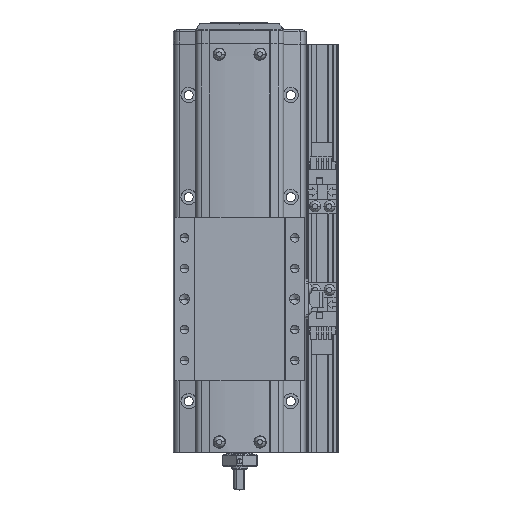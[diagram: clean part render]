
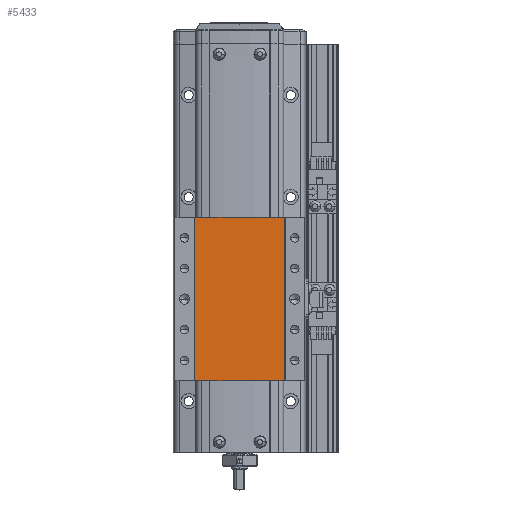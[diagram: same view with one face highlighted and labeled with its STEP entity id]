
A CAD part, top view. The second image highlights one B-rep face of the part: STEP entity #5433.
In plain terms, the highlighted planar face has unit normal (0, 0, 1).
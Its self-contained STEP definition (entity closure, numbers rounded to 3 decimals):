
#5433=ADVANCED_FACE('',(#11132),#11133,.F.);
#11132=FACE_OUTER_BOUND('',#17964,.T.);
#11133=PLANE('',#17965);
#17964=EDGE_LOOP('',(#33157,#33158,#33159,#33160));
#17965=AXIS2_PLACEMENT_3D('',#33161,#33162,#33163);
#33157=ORIENTED_EDGE('',*,*,#39109,.F.);
#33158=ORIENTED_EDGE('',*,*,#39848,.F.);
#33159=ORIENTED_EDGE('',*,*,#37283,.F.);
#33160=ORIENTED_EDGE('',*,*,#43454,.T.);
#33161=CARTESIAN_POINT('',(311.,250.0,26.7));
#33162=DIRECTION('',(0.,0.,-1.0));
#33163=DIRECTION('',(-1.0,0.,0.));
#37283=EDGE_CURVE('',#44306,#44308,#44309,.T.);
#39109=EDGE_CURVE('',#47498,#47500,#47501,.T.);
#39848=EDGE_CURVE('',#44308,#47498,#48716,.T.);
#43454=EDGE_CURVE('',#44306,#47500,#53650,.T.);
#44306=VERTEX_POINT('',#54620);
#44308=VERTEX_POINT('',#54623);
#44309=LINE('',#54624,#54625);
#47498=VERTEX_POINT('',#59160);
#47500=VERTEX_POINT('',#59163);
#47501=LINE('',#59164,#59165);
#48716=LINE('',#60899,#60900);
#53650=LINE('',#68126,#68127);
#54620=CARTESIAN_POINT('',(322.,250.0,26.7));
#54623=CARTESIAN_POINT('',(278.,250.0,26.7));
#54624=CARTESIAN_POINT('',(322.,250.0,26.7));
#54625=VECTOR('',#69257,10.0);
#59160=CARTESIAN_POINT('',(278.,330.0,26.7));
#59163=CARTESIAN_POINT('',(322.,330.0,26.7));
#59164=CARTESIAN_POINT('',(300.,330.0,26.7));
#59165=VECTOR('',#71453,10.0);
#60899=CARTESIAN_POINT('',(278.,250.0,26.7));
#60900=VECTOR('',#72371,10.0);
#68126=CARTESIAN_POINT('',(322.,250.0,26.7));
#68127=VECTOR('',#76227,10.0);
#69257=DIRECTION('',(-1.0,0.,0.));
#71453=DIRECTION('',(1.0,0.,0.));
#72371=DIRECTION('',(0.,1.0,0.));
#76227=DIRECTION('',(0.,1.0,0.));
